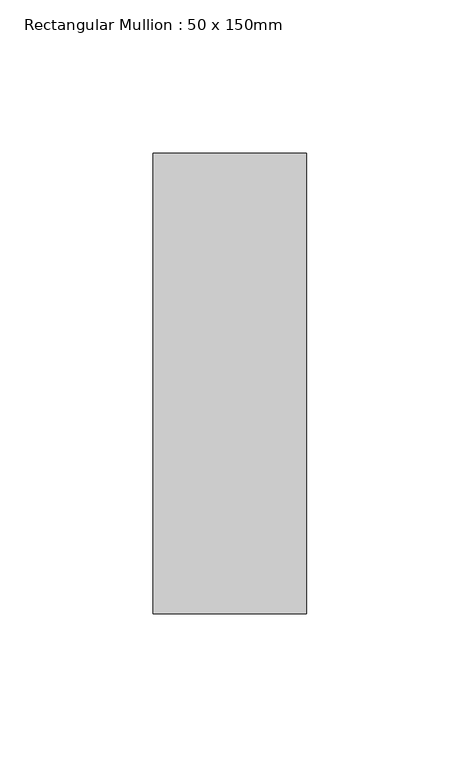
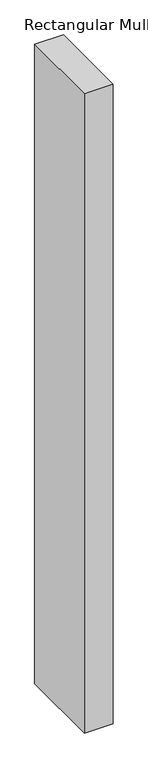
"""IFC4 building model written with IfcOpenShell, lengths in millimetres: member geometry, Rectangular Mullion : 50 x 150mm."""

import ifcopenshell
import ifcopenshell.guid

model = None  # the IFC model being written
_history = None  # IfcOwnerHistory: only IFC2X3 demands one
_inside = {}  # id of a spatial element -> (the spatial element, [elements in it])
_under = {}  # id of a project, library or spatial element -> (it, [spatial elements below it])
_declared = {}  # id of a project -> (the project, [libraries it declares])
_typed = {}  # id of a type object -> (the type object, [elements of that type])
_made_of = {}  # id of a material, layer set ... -> (it, [elements and type objects made of it])


def new_model(schema):
    """Start an empty IFC model of exactly this schema.

    Asked for "IFC4X3", IfcOpenShell would pick the latest addendum, in which some entities
    have other attributes; the version numbers below select the first issue.
    IFC2X3 requires an IfcOwnerHistory on every rooted entity: one is made here for all.
    """
    global model, _history
    if schema == "IFC4X3":
        model = ifcopenshell.file(schema_version=(4, 3, 0, 0))
    else:
        model = ifcopenshell.file(schema=schema)
    _inside.clear()
    _under.clear()
    _declared.clear()
    _typed.clear()
    _made_of.clear()
    _history = None
    if model.schema == "IFC2X3":
        org = make("IfcOrganization", Name="unknown")
        user = make(
            "IfcPersonAndOrganization",
            ThePerson=make("IfcPerson", FamilyName="unknown"),
            TheOrganization=org,
        )
        app = make(
            "IfcApplication",
            ApplicationDeveloper=org,
            Version="unknown",
            ApplicationFullName="unknown",
            ApplicationIdentifier="unknown",
        )
        _history = make(
            "IfcOwnerHistory",
            OwningUser=user,
            OwningApplication=app,
            ChangeAction="ADDED",
            CreationDate=0,
        )
    return model


def make(cls, **values):
    """One entity of the class cls with the attributes given. An attribute that is None is left unset."""
    return model.create_entity(
        cls, **{name: value for name, value in values.items() if value is not None}
    )


def rooted(cls, **values):
    """An entity with a GlobalId (a new one), such as an element, a storey or a relation."""
    return make(cls, GlobalId=ifcopenshell.guid.new(), OwnerHistory=_history, **values)


def si_unit(unit_type, name, prefix=None):
    """IfcSIUnit, for example si_unit("LENGTHUNIT", "METRE", prefix="MILLI")."""
    return make("IfcSIUnit", UnitType=unit_type, Prefix=prefix, Name=name)


def assignment(units):
    """IfcUnitAssignment: the units of a project."""
    return None if units is None else make("IfcUnitAssignment", Units=units)


def point(xyz):
    """IfcCartesianPoint."""
    return None if xyz is None else make("IfcCartesianPoint", Coordinates=xyz)


def direction(xyz):
    """IfcDirection."""
    return None if xyz is None else make("IfcDirection", DirectionRatios=xyz)


def frame(location, z_axis=None, x_axis=None):
    """IfcAxis2Placement3D, a coordinate frame: its origin and axes. An axis left out is left unset."""
    return make(
        "IfcAxis2Placement3D",
        Location=point(location),
        Axis=direction(z_axis),
        RefDirection=direction(x_axis),
    )


def origin():
    """The frame at (0, 0, 0) with its axes left unset."""
    return frame((0.0, 0.0, 0.0))


def place(relative_to, where):
    """IfcLocalPlacement: puts the frame where relative to a parent placement (None: the world)."""
    return make(
        "IfcLocalPlacement", PlacementRelTo=relative_to, RelativePlacement=where
    )


def context(
    kind, dimensions, precision=None, world=None, true_north=None, identifier=None
):
    """IfcGeometricRepresentationContext, for example the 3D "Model" context."""
    return make(
        "IfcGeometricRepresentationContext",
        ContextIdentifier=identifier,
        ContextType=kind,
        CoordinateSpaceDimension=dimensions,
        Precision=precision,
        WorldCoordinateSystem=world,
        TrueNorth=true_north,
    )


def project(units=None, contexts=None):
    """IfcProject with its units and contexts."""
    return rooted(
        "IfcProject",
        Name="project",
        RepresentationContexts=contexts,
        UnitsInContext=assignment(units),
    )


def spatial(cls, under=None, at=None, **own):
    """A site, building, storey or space (cls), placed at a placement, below another one or the project."""
    s = rooted(cls, ObjectPlacement=at, **own)
    if under is not None:
        _under.setdefault(under.id(), (under, []))[1].append(s)
    return s


def polyline(points):
    """IfcPolyline through the points."""
    return make("IfcPolyline", Points=[point(p) for p in points])


def outline(outer, holes=None, kind="AREA"):
    """IfcArbitraryClosedProfileDef: a profile drawn as a closed curve; with holes, ...WithVoids."""
    if holes is None:
        return make("IfcArbitraryClosedProfileDef", ProfileType=kind, OuterCurve=outer)
    return make(
        "IfcArbitraryProfileDefWithVoids",
        ProfileType=kind,
        OuterCurve=outer,
        InnerCurves=holes,
    )


def extrude(swept, where, along, depth):
    """IfcExtrudedAreaSolid: the profile swept, set in the frame where, extruded along a direction by depth."""
    return make(
        "IfcExtrudedAreaSolid",
        SweptArea=swept,
        Position=where,
        ExtrudedDirection=direction(along),
        Depth=depth,
    )


def shape(context_of_items, identifier, shape_type, items):
    """IfcShapeRepresentation: the items that make up one representation, for example the "Body"."""
    return make(
        "IfcShapeRepresentation",
        ContextOfItems=context_of_items,
        RepresentationIdentifier=identifier,
        RepresentationType=shape_type,
        Items=items,
    )


def source(mapping_origin, context_of_items, identifier, shape_type, items):
    """IfcRepresentationMap: a shape defined once, which mapped items show again and again."""
    return make(
        "IfcRepresentationMap",
        MappingOrigin=mapping_origin,
        MappedRepresentation=shape(context_of_items, identifier, shape_type, items),
    )


def transform(
    local_origin,
    x_axis=None,
    y_axis=None,
    z_axis=None,
    scale=None,
    scale2=None,
    scale3=None,
    uniform=True,
):
    """IfcCartesianTransformationOperator3D, or its non-uniform kind. x_axis, y_axis, z_axis: its Axis1, 2, 3."""
    if uniform:
        return make(
            "IfcCartesianTransformationOperator3D",
            Axis1=direction(x_axis),
            Axis2=direction(y_axis),
            LocalOrigin=point(local_origin),
            Scale=scale,
            Axis3=direction(z_axis),
        )
    return make(
        "IfcCartesianTransformationOperator3DnonUniform",
        Axis1=direction(x_axis),
        Axis2=direction(y_axis),
        LocalOrigin=point(local_origin),
        Scale=scale,
        Axis3=direction(z_axis),
        Scale2=scale2,
        Scale3=scale3,
    )


def mapped(mapping_source, mapping_target):
    """IfcMappedItem: shows the shape of a source again, moved by a transform."""
    return make(
        "IfcMappedItem", MappingSource=mapping_source, MappingTarget=mapping_target
    )


def made_of(thing, what):
    """Note that an element or type object is made of a material, layer set ...; save() writes the relation."""
    if what is not None:
        _made_of.setdefault(what.id(), (what, []))[1].append(thing)
    return thing


def element(
    cls,
    number,
    at=None,
    inside=None,
    cuts=None,
    type_object=None,
    material=None,
    context=None,
    identifier="Body",
    shape_type=None,
    held_by="IfcProductDefinitionShape",
    body=None,
    shapes=None,
    **own,
):
    """One element of the class cls, such as IfcWall. Its Tag is "e" and its number.

    at: its placement. inside: the storey or other place that contains it. cuts: it is an
    opening in that element (IfcRelVoidsElement). A single representation is given by context,
    identifier, shape_type and body (its items); several are given by shapes. held_by: the class
    of the entity that holds the representations. save() writes the other relations.
    """
    e = rooted(cls, Tag="e%d" % number, ObjectPlacement=at, **own)
    if body is not None:
        shapes = [shape(context, identifier, shape_type, body)]
    if shapes is not None:
        e.Representation = make(held_by, Representations=shapes)
    if inside is not None:
        _inside.setdefault(inside.id(), (inside, []))[1].append(e)
    if cuts is not None:
        rooted(
            "IfcRelVoidsElement", RelatingBuildingElement=cuts, RelatedOpeningElement=e
        )
    if type_object is not None:
        _typed.setdefault(type_object.id(), (type_object, []))[1].append(e)
    return made_of(e, material)


def aggregate(whole, parts):
    """IfcRelAggregates: a whole, such as a stair, and the parts it consists of."""
    return rooted("IfcRelAggregates", RelatingObject=whole, RelatedObjects=parts)


def save(model, path):
    """Write the relations noted so far, then the file.

    IfcRelAggregates (storeys below a building ...), IfcRelContainedInSpatialStructure (elements
    in a storey), IfcRelDefinesByType, IfcRelAssociatesMaterial and IfcRelDeclares: one each for
    every whole, place, type object, material and project.
    """
    for whole, parts in _under.values():
        aggregate(whole, parts)
    for where, things in _inside.values():
        rooted(
            "IfcRelContainedInSpatialStructure",
            RelatedElements=things,
            RelatingStructure=where,
        )
    for kind, things in _typed.values():
        rooted("IfcRelDefinesByType", RelatedObjects=things, RelatingType=kind)
    for what, things in _made_of.values():
        rooted("IfcRelAssociatesMaterial", RelatedObjects=things, RelatingMaterial=what)
    for by, libraries in _declared.values():
        rooted("IfcRelDeclares", RelatingContext=by, RelatedDefinitions=libraries)
    model.write(path)


def rectangular_mullion_50_x_150mm_cd6dba41(model_context):
    return source(origin(), model_context, "Body", "SweptSolid", [
        extrude(outline(polyline([(25.0, 75.0), (25.0, -75.0), (-25.0, -75.0), (-25.0, 75.0), (25.0, 75.0)])), frame((0.0, 0.0, -1174.9999998), z_axis=(0.0, 0.0, 1.0), x_axis=(1.0, 0.0, 0.0)), (0.0, 0.0, 1.0), 1174.9999998),
    ])


if __name__ == "__main__":
    model = new_model("IFC4")
    model_context = context("Model", 3, world=origin())
    ifc_project = project(units=[si_unit("LENGTHUNIT", "METRE", prefix="MILLI")], contexts=[model_context])
    site = spatial("IfcSite", under=ifc_project)
    building = spatial("IfcBuilding", under=site)
    placement = place(None, origin())
    rectangular_mullion_50_x_150mm_shape = rectangular_mullion_50_x_150mm_cd6dba41(model_context)
    element("IfcMember", 1, ObjectType="Rectangular Mullion : 50 x 150mm", at=placement, inside=building, context=model_context, shape_type="MappedRepresentation", body=[
        mapped(rectangular_mullion_50_x_150mm_shape, transform((0.0, 0.0, 0.0), x_axis=(1.0, 0.0, 0.0), y_axis=(0.0, 1.0, 0.0), z_axis=(0.0, 0.0, 1.0))),
    ])
    save(model, "model.ifc")
